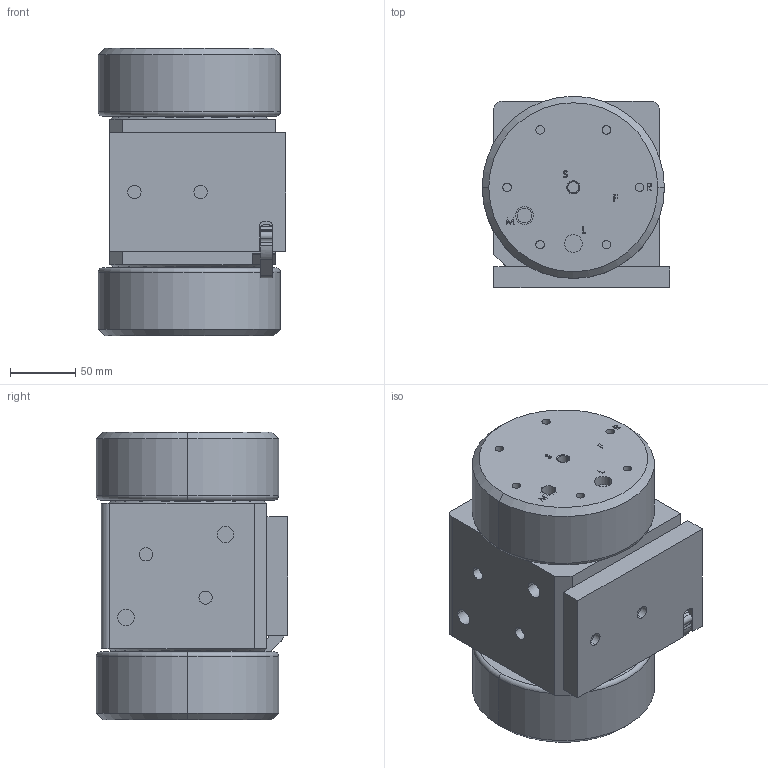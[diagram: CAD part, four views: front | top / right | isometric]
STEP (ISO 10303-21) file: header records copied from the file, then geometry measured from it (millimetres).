
FILE_DESCRIPTION (( 'STEP AP214' ), '1' );
FILE_NAME ('psa060-no-shuttle.STEP', '2012-11-21T21:30:32', ( '' ), ( '' ), 'SwSTEP 2.0', 'SolidWorks 2012', '' );
FILE_SCHEMA (( 'AUTOMOTIVE_DESIGN' ));
Length unit declared in the file: inch
Products named in the file (1): psa060-no-shuttle
Bounding box: 143.81 x 146.63 x 220.42 mm (x, y, z)
Volume: 3544968 mm3; surface area: 201178.6 mm2
Topology: 2 solids, 2 shells, 1047 faces, 2743 edges, 1828 vertices
Faces by surface type: plane 723, bspline 159, cylinder 143, cone 18, torus 4
Entity records: 42582 total; most frequent: CARTESIAN_POINT 14474, ORIENTED_EDGE 5486, DIRECTION 4545, EDGE_CURVE 2743, VECTOR 2083, LINE 2083, VERTEX_POINT 1828, AXIS2_PLACEMENT_3D 1231
